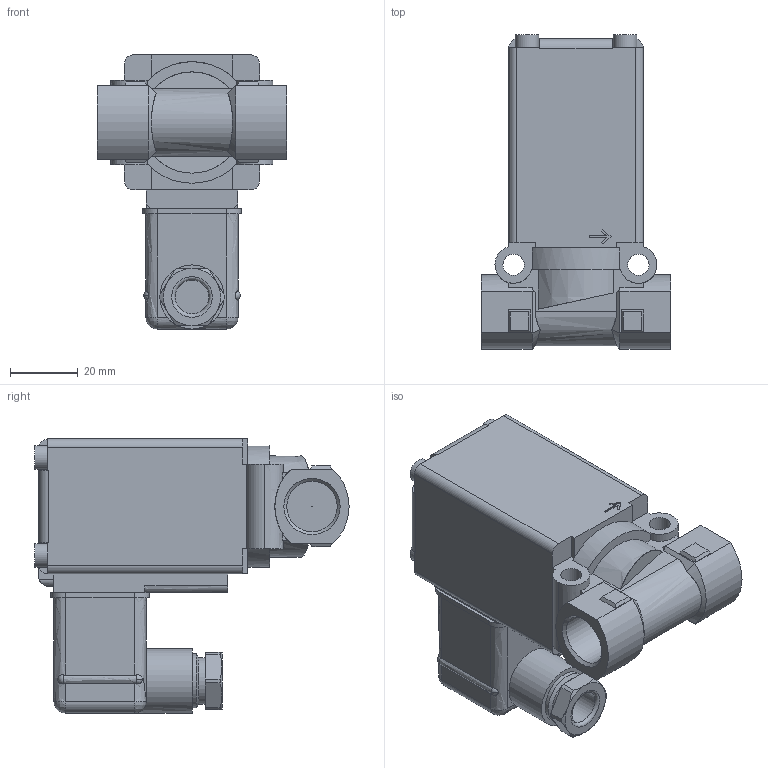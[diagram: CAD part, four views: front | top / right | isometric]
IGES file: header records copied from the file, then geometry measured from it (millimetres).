
Start section: Data from Parasolid IGES Translator 26.0.171, Copyright(c) 2006 Siemens PLM Software. All Rights Reserved.
Global section: file name: 0256-145769-2_2-way_Solenoid_Valve.igs; native system: By Siemens PLM Incorporated; preprocessor: XPlus GENERIC/IGES 26.0.171; author: Noname; organization: Noname; date: 20240731.171409; units: millimetre
Bounding box: 56 x 93.1 x 81.2 mm (x, y, z)
Surface area: 26739.7 mm2 (no closed solid volume)
Topology: 0 solids, 0 shells, 246 faces, 1256 edges, 1222 vertices
Faces by surface type: extrusion 152, revolution 94
